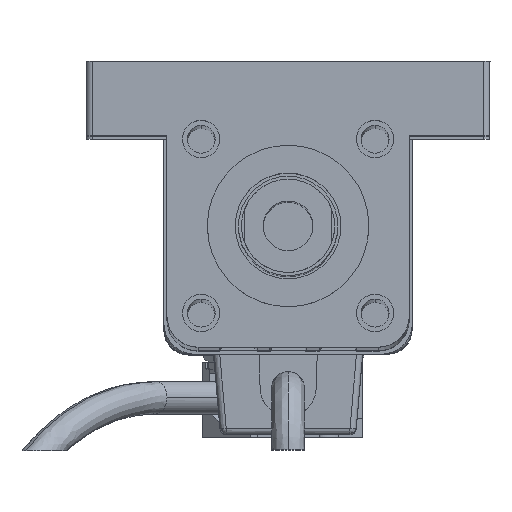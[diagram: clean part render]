
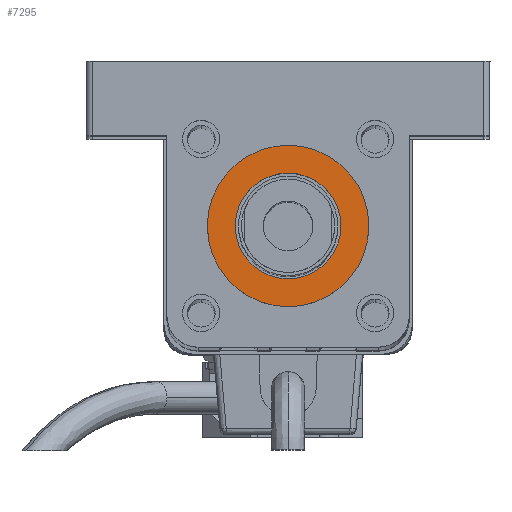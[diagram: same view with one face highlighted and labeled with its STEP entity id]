
A CAD part, top view. The second image highlights one B-rep face of the part: STEP entity #7295.
In plain terms, the highlighted planar face has unit normal (0, 0, 1) as drawn and (0, 0, -1) by its records, which use the part's own axes.
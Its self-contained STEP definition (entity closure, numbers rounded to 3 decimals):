
#493 = DIRECTION ( 'NONE',  ( 0., 0., -1. ) ) ;
#3013 = CIRCLE ( 'NONE', #19083, 13. ) ;
#3152 = DIRECTION ( 'NONE',  ( -1., 0., 0. ) ) ;
#4715 = CARTESIAN_POINT ( 'NONE',  ( 19.5, -19.5, -3. ) ) ;
#4873 = DIRECTION ( 'NONE',  ( 0., 0., -1. ) ) ;
#7295 = ADVANCED_FACE ( 'NONE', ( #25975, #14749 ), #21744, .T. ) ;
#8205 = CARTESIAN_POINT ( 'NONE',  ( 32.5, -19.5, -3. ) ) ;
#8655 = EDGE_LOOP ( 'NONE', ( #9522, #27304 ) ) ;
#8753 = CARTESIAN_POINT ( 'NONE',  ( 11., -19.5, -3. ) ) ;
#9522 = ORIENTED_EDGE ( 'NONE', *, *, #27949, .T. ) ;
#9609 = AXIS2_PLACEMENT_3D ( 'NONE', #15200, #26087, #17247 ) ;
#9628 = CARTESIAN_POINT ( 'NONE',  ( 19.5, -19.5, -3. ) ) ;
#9963 = VERTEX_POINT ( 'NONE', #23773 ) ;
#11550 = VERTEX_POINT ( 'NONE', #20280 ) ;
#11873 = AXIS2_PLACEMENT_3D ( 'NONE', #4715, #24827, #18408 ) ;
#12817 = CIRCLE ( 'NONE', #16436, 13. ) ;
#13410 = VERTEX_POINT ( 'NONE', #8753 ) ;
#14749 = FACE_OUTER_BOUND ( 'NONE', #8655, .T. ) ;
#15200 = CARTESIAN_POINT ( 'NONE',  ( 19.5, -19.5, -3. ) ) ;
#16436 = AXIS2_PLACEMENT_3D ( 'NONE', #9628, #493, #3152 ) ;
#17104 = DIRECTION ( 'NONE',  ( 0., 0., -1. ) ) ;
#17117 = CIRCLE ( 'NONE', #11873, 8.5 ) ;
#17247 = DIRECTION ( 'NONE',  ( -1., 0., 0. ) ) ;
#18375 = CARTESIAN_POINT ( 'NONE',  ( 19.5, -19.5, -3. ) ) ;
#18408 = DIRECTION ( 'NONE',  ( -1., 0., 0. ) ) ;
#18959 = DIRECTION ( 'NONE',  ( -1., 0., 0. ) ) ;
#19083 = AXIS2_PLACEMENT_3D ( 'NONE', #18375, #4873, #18959 ) ;
#19300 = AXIS2_PLACEMENT_3D ( 'NONE', #26238, #17104, #19354 ) ;
#19354 = DIRECTION ( 'NONE',  ( -1., 0., 0. ) ) ;
#19717 = EDGE_CURVE ( 'NONE', #11550, #21970, #3013, .T. ) ;
#20280 = CARTESIAN_POINT ( 'NONE',  ( 6.5, -19.5, -3. ) ) ;
#20829 = CIRCLE ( 'NONE', #19300, 8.5 ) ;
#21744 = PLANE ( 'NONE',  #9609 ) ;
#21970 = VERTEX_POINT ( 'NONE', #8205 ) ;
#22054 = EDGE_CURVE ( 'NONE', #13410, #9963, #20829, .T. ) ;
#22778 = EDGE_LOOP ( 'NONE', ( #28914, #27299 ) ) ;
#23773 = CARTESIAN_POINT ( 'NONE',  ( 28., -19.5, -3. ) ) ;
#24827 = DIRECTION ( 'NONE',  ( 0., 0., -1. ) ) ;
#25947 = EDGE_CURVE ( 'NONE', #9963, #13410, #17117, .T. ) ;
#25975 = FACE_BOUND ( 'NONE', #22778, .T. ) ;
#26087 = DIRECTION ( 'NONE',  ( 0., 0., -1. ) ) ;
#26238 = CARTESIAN_POINT ( 'NONE',  ( 19.5, -19.5, -3. ) ) ;
#27299 = ORIENTED_EDGE ( 'NONE', *, *, #25947, .F. ) ;
#27304 = ORIENTED_EDGE ( 'NONE', *, *, #19717, .T. ) ;
#27949 = EDGE_CURVE ( 'NONE', #21970, #11550, #12817, .T. ) ;
#28914 = ORIENTED_EDGE ( 'NONE', *, *, #22054, .F. ) ;
